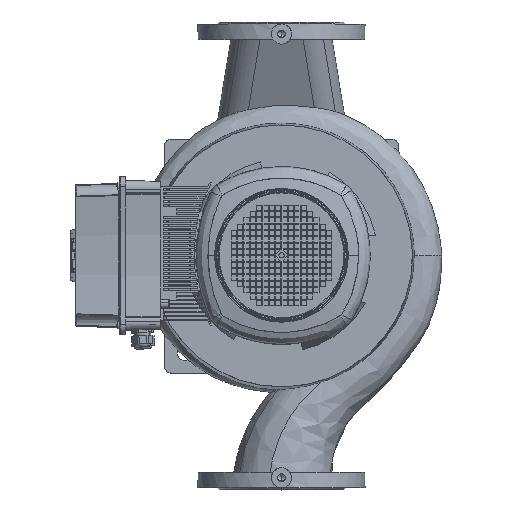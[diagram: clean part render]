
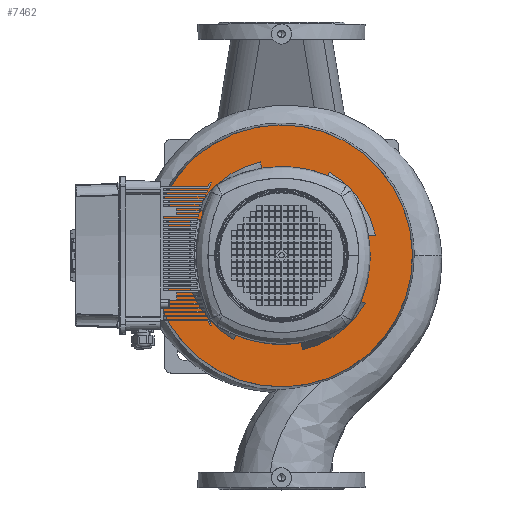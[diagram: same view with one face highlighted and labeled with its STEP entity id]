
A CAD part, top view. The second image highlights one B-rep face of the part: STEP entity #7462.
In plain terms, the highlighted planar face has unit normal (0, 0, 1) as drawn and (1, 0, 0) by its records, which use the part's own axes.
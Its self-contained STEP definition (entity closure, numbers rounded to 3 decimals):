
#7462=ADVANCED_FACE('',(#18400,#18401),#18402,.T.);
#7486=EDGE_CURVE('',#18441,#18442,#18443,.T.);
#7510=EDGE_CURVE('',#18485,#18486,#18487,.T.);
#7518=EDGE_CURVE('',#18495,#18498,#18499,.T.);
#7526=EDGE_CURVE('',#18507,#18510,#18511,.T.);
#7532=EDGE_CURVE('',#18514,#18486,#18519,.T.);
#7534=EDGE_CURVE('',#18521,#18498,#18522,.T.);
#7542=EDGE_CURVE('',#18533,#18529,#18534,.T.);
#7550=EDGE_CURVE('',#18544,#18540,#18545,.T.);
#7558=EDGE_CURVE('',#18551,#18554,#18555,.T.);
#7568=EDGE_CURVE('',#18565,#18495,#18568,.T.);
#7574=EDGE_CURVE('',#18573,#18507,#18576,.T.);
#7582=EDGE_CURVE('',#18584,#18579,#18587,.T.);
#7584=EDGE_CURVE('',#18510,#18529,#18589,.T.);
#7588=EDGE_CURVE('',#18579,#18540,#18593,.T.);
#7592=EDGE_CURVE('',#18554,#18485,#18597,.T.);
#7596=EDGE_CURVE('',#18521,#18573,#18601,.T.);
#7600=EDGE_CURVE('',#18533,#18584,#18605,.T.);
#7602=EDGE_CURVE('',#18514,#18565,#18607,.T.);
#7606=EDGE_CURVE('',#18442,#18441,#18611,.T.);
#7608=EDGE_CURVE('',#18544,#18551,#18613,.T.);
#18400=FACE_OUTER_BOUND('',#35634,.T.);
#18401=FACE_BOUND('',#35635,.T.);
#18402=PLANE('',#35636);
#18441=VERTEX_POINT('',#35677);
#18442=VERTEX_POINT('',#35678);
#18443=CIRCLE('',#35679,196.0);
#18485=VERTEX_POINT('',#35733);
#18486=VERTEX_POINT('',#35734);
#18487=CIRCLE('',#35735,132.799);
#18495=VERTEX_POINT('',#35755);
#18498=VERTEX_POINT('',#35768);
#18499=CIRCLE('',#35769,132.799);
#18507=VERTEX_POINT('',#35789);
#18510=VERTEX_POINT('',#35802);
#18511=CIRCLE('',#35803,132.799);
#18514=VERTEX_POINT('',#35807);
#18519=LINE('',#35824,#35825);
#18521=VERTEX_POINT('',#35828);
#18522=LINE('',#35829,#35830);
#18529=VERTEX_POINT('',#35850);
#18533=VERTEX_POINT('',#35864);
#18534=LINE('',#35865,#35866);
#18540=VERTEX_POINT('',#35885);
#18544=VERTEX_POINT('',#35899);
#18545=LINE('',#35900,#35901);
#18551=VERTEX_POINT('',#35920);
#18554=VERTEX_POINT('',#35933);
#18555=LINE('',#35934,#35935);
#18565=VERTEX_POINT('',#35960);
#18568=LINE('',#35973,#35974);
#18573=VERTEX_POINT('',#35982);
#18576=LINE('',#35995,#35996);
#18579=VERTEX_POINT('',#36000);
#18584=VERTEX_POINT('',#36017);
#18587=LINE('',#36030,#36031);
#18589=CIRCLE('',#36034,132.799);
#18593=CIRCLE('',#36040,132.799);
#18597=CIRCLE('',#36046,132.799);
#18601=CIRCLE('',#36052,144.0);
#18605=CIRCLE('',#36058,144.0);
#18607=CIRCLE('',#36061,144.0);
#18611=CIRCLE('',#36067,196.0);
#18613=CIRCLE('',#36070,144.0);
#35634=EDGE_LOOP('',(#61214,#61215));
#35635=EDGE_LOOP('',(#61216,#61217,#61218,#61219,#61220,#61221,#61222,#61223,#61224,#61225,#61226,#61227,#61228,#61229,#61230,#61231,#61232,#61233));
#35636=AXIS2_PLACEMENT_3D('',#61234,#61235,#61236);
#35677=CARTESIAN_POINT('',(20.0,196.0,0.0));
#35678=CARTESIAN_POINT('',(20.0,-196.0,0.));
#35679=AXIS2_PLACEMENT_3D('',#61336,#61337,#61338);
#35733=CARTESIAN_POINT('',(20.0,-132.799,0.));
#35734=CARTESIAN_POINT('',(20.0,-123.51,-48.794));
#35735=AXIS2_PLACEMENT_3D('',#61372,#61373,#61374);
#35755=CARTESIAN_POINT('',(20.0,-48.794,-123.51));
#35768=CARTESIAN_POINT('',(20.0,48.794,-123.51));
#35769=AXIS2_PLACEMENT_3D('',#61378,#61379,#61380);
#35789=CARTESIAN_POINT('',(20.0,123.51,-48.794));
#35802=CARTESIAN_POINT('',(20.0,132.799,0.));
#35803=AXIS2_PLACEMENT_3D('',#61384,#61385,#61386);
#35807=CARTESIAN_POINT('',(20.0,-134.395,-51.711));
#35824=CARTESIAN_POINT('',(20.0,-134.395,-51.711));
#35825=VECTOR('',#61388,1.0);
#35828=CARTESIAN_POINT('',(20.0,51.711,-134.395));
#35829=CARTESIAN_POINT('',(20.0,51.711,-134.395));
#35830=VECTOR('',#61389,1.0);
#35850=CARTESIAN_POINT('',(20.0,123.51,48.794));
#35864=CARTESIAN_POINT('',(20.0,134.395,51.711));
#35865=CARTESIAN_POINT('',(20.0,134.395,51.711));
#35866=VECTOR('',#61391,1.0);
#35885=CARTESIAN_POINT('',(20.0,-48.794,123.51));
#35899=CARTESIAN_POINT('',(20.0,-51.711,134.395));
#35900=CARTESIAN_POINT('',(20.0,-51.711,134.395));
#35901=VECTOR('',#61393,1.0);
#35920=CARTESIAN_POINT('',(20.0,-134.395,51.711));
#35933=CARTESIAN_POINT('',(20.0,-123.51,48.794));
#35934=CARTESIAN_POINT('',(20.0,-134.395,51.711));
#35935=VECTOR('',#61395,1.0);
#35960=CARTESIAN_POINT('',(20.0,-51.711,-134.395));
#35973=CARTESIAN_POINT('',(20.0,-51.711,-134.395));
#35974=VECTOR('',#61398,1.0);
#35982=CARTESIAN_POINT('',(20.0,134.395,-51.711));
#35995=CARTESIAN_POINT('',(20.0,134.395,-51.711));
#35996=VECTOR('',#61400,1.0);
#36000=CARTESIAN_POINT('',(20.0,48.794,123.51));
#36017=CARTESIAN_POINT('',(20.0,51.711,134.395));
#36030=CARTESIAN_POINT('',(20.0,51.711,134.395));
#36031=VECTOR('',#61402,1.0);
#36034=AXIS2_PLACEMENT_3D('',#61403,#61404,#61405);
#36040=AXIS2_PLACEMENT_3D('',#61409,#61410,#61411);
#36046=AXIS2_PLACEMENT_3D('',#61415,#61416,#61417);
#36052=AXIS2_PLACEMENT_3D('',#61421,#61422,#61423);
#36058=AXIS2_PLACEMENT_3D('',#61427,#61428,#61429);
#36061=AXIS2_PLACEMENT_3D('',#61430,#61431,#61432);
#36067=AXIS2_PLACEMENT_3D('',#61436,#61437,#61438);
#36070=AXIS2_PLACEMENT_3D('',#61439,#61440,#61441);
#61214=ORIENTED_EDGE('',*,*,#7486,.T.);
#61215=ORIENTED_EDGE('',*,*,#7606,.T.);
#61216=ORIENTED_EDGE('',*,*,#7608,.F.);
#61217=ORIENTED_EDGE('',*,*,#7550,.T.);
#61218=ORIENTED_EDGE('',*,*,#7588,.F.);
#61219=ORIENTED_EDGE('',*,*,#7582,.F.);
#61220=ORIENTED_EDGE('',*,*,#7600,.F.);
#61221=ORIENTED_EDGE('',*,*,#7542,.T.);
#61222=ORIENTED_EDGE('',*,*,#7584,.F.);
#61223=ORIENTED_EDGE('',*,*,#7526,.F.);
#61224=ORIENTED_EDGE('',*,*,#7574,.F.);
#61225=ORIENTED_EDGE('',*,*,#7596,.F.);
#61226=ORIENTED_EDGE('',*,*,#7534,.T.);
#61227=ORIENTED_EDGE('',*,*,#7518,.F.);
#61228=ORIENTED_EDGE('',*,*,#7568,.F.);
#61229=ORIENTED_EDGE('',*,*,#7602,.F.);
#61230=ORIENTED_EDGE('',*,*,#7532,.T.);
#61231=ORIENTED_EDGE('',*,*,#7510,.F.);
#61232=ORIENTED_EDGE('',*,*,#7592,.F.);
#61233=ORIENTED_EDGE('',*,*,#7558,.F.);
#61234=CARTESIAN_POINT('',(20.0,170.0,0.0));
#61235=DIRECTION('',(1.0,0.0,0.0));
#61236=DIRECTION('',(0.0,0.0,-1.0));
#61336=CARTESIAN_POINT('',(20.0,0.0,0.0));
#61337=DIRECTION('',(1.0,0.0,0.0));
#61338=DIRECTION('',(0.0,1.0,0.0));
#61372=CARTESIAN_POINT('',(20.0,0.0,0.0));
#61373=DIRECTION('',(1.0,0.0,0.0));
#61374=DIRECTION('',(0.0,1.0,0.0));
#61378=CARTESIAN_POINT('',(20.0,0.0,0.0));
#61379=DIRECTION('',(1.0,0.0,0.0));
#61380=DIRECTION('',(0.0,1.0,0.0));
#61384=CARTESIAN_POINT('',(20.0,0.0,0.0));
#61385=DIRECTION('',(1.0,0.0,0.0));
#61386=DIRECTION('',(0.0,1.0,0.0));
#61388=DIRECTION('',(0.,0.966,0.259));
#61389=DIRECTION('',(0.,-0.259,0.966));
#61391=DIRECTION('',(0.,-0.966,-0.259));
#61393=DIRECTION('',(0.,0.259,-0.966));
#61395=DIRECTION('',(0.,0.966,-0.259));
#61398=DIRECTION('',(0.,0.259,0.966));
#61400=DIRECTION('',(0.,-0.966,0.259));
#61402=DIRECTION('',(0.,-0.259,-0.966));
#61403=CARTESIAN_POINT('',(20.0,0.0,0.0));
#61404=DIRECTION('',(1.0,0.0,0.0));
#61405=DIRECTION('',(0.0,1.0,0.0));
#61409=CARTESIAN_POINT('',(20.0,0.0,0.0));
#61410=DIRECTION('',(1.0,0.0,0.0));
#61411=DIRECTION('',(0.0,1.0,0.0));
#61415=CARTESIAN_POINT('',(20.0,0.0,0.0));
#61416=DIRECTION('',(1.0,0.0,0.0));
#61417=DIRECTION('',(0.0,1.0,0.0));
#61421=CARTESIAN_POINT('',(20.0,0.0,0.0));
#61422=DIRECTION('',(1.0,0.0,0.0));
#61423=DIRECTION('',(0.0,1.0,0.0));
#61427=CARTESIAN_POINT('',(20.0,0.0,0.0));
#61428=DIRECTION('',(1.0,0.0,0.0));
#61429=DIRECTION('',(0.0,1.0,0.0));
#61430=CARTESIAN_POINT('',(20.0,0.0,0.0));
#61431=DIRECTION('',(1.0,0.0,0.0));
#61432=DIRECTION('',(0.0,1.0,0.0));
#61436=CARTESIAN_POINT('',(20.0,0.0,0.0));
#61437=DIRECTION('',(1.0,0.0,0.0));
#61438=DIRECTION('',(0.0,1.0,0.0));
#61439=CARTESIAN_POINT('',(20.0,0.0,0.0));
#61440=DIRECTION('',(1.0,0.0,0.0));
#61441=DIRECTION('',(0.0,1.0,0.0));
